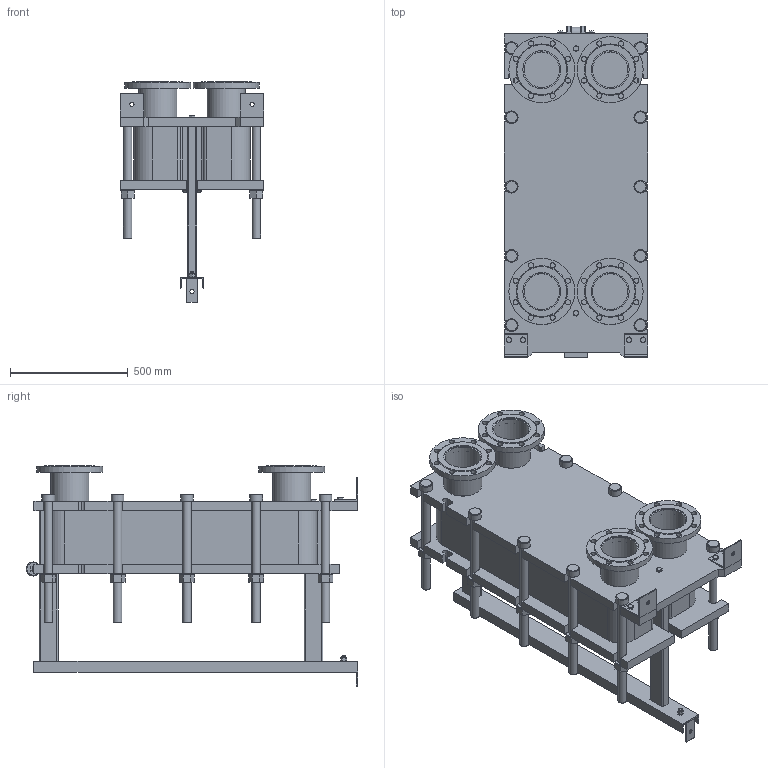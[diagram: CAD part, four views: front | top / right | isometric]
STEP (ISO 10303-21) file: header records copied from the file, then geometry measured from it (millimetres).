
FILE_DESCRIPTION(/* description */ (''),/* implementation_level */ '2;1');
FILE_NAME(/* name */ 'C:\Users\zhuro\Desktop\ENCO\TO\ЭН-041\ЭН-0,5-041-66-1.stp',/* time_stamp */ '2022-06-06T10:54:45+03:00',/* author */ ('zhuro'),/* organization */ (''),/* preprocessor_version */ 'ST-DEVELOPER v18.1',/* originating_system */ 'Autodesk Inventor 2022',/* authorisation */ '');
FILE_SCHEMA (('AUTOMOTIVE_DESIGN { 1 0 10303 214 3 1 1 }'));
Length unit declared in the file: millimetre
Products named in the file (1): ЭН-0,5-041-66-1
Bounding box: 610 x 1406.5 x 935 mm (x, y, z)
Volume: 206150853.3 mm3; surface area: 8274839 mm2
Topology: 52 solids, 52 shells, 711 faces, 1696 edges, 1094 vertices
Faces by surface type: plane 487, cylinder 177, cone 41, torus 6
Full cylindrical faces by diameter (mm): 8 x4, 10 x2, 16 x8, 18 x3, 22 x32, 36 x24, 50 x1, 54 x10, 60 x12, 151 x4, 161 x8, 280 x4
Entity records: 22667 total; most frequent: CARTESIAN_POINT 5230, DIRECTION 3644, ORIENTED_EDGE 3392, EDGE_CURVE 1696, AXIS2_PLACEMENT_3D 1272, LINE 1100, VECTOR 1100, VERTEX_POINT 1094
